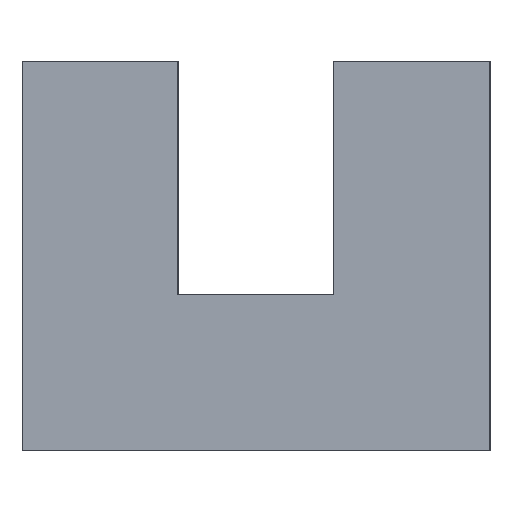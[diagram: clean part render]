
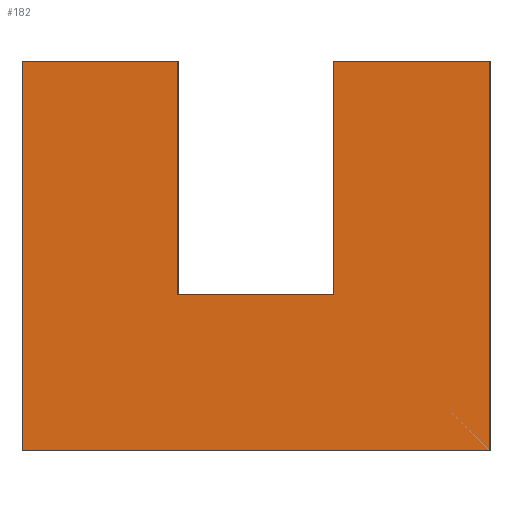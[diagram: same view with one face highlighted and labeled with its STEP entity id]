
A CAD part, left-side view. The second image highlights one B-rep face of the part: STEP entity #182.
In plain terms, the highlighted planar face has unit normal (-1, 0, 0).
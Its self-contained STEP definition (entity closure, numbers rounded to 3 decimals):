
#28 = ORIENTED_EDGE ( 'NONE', *, *, #205, .T. ) ;
#29 = VECTOR ( 'NONE', #273, 1000. ) ;
#35 = DIRECTION ( 'NONE',  ( 0., 0., -1. ) ) ;
#42 = CARTESIAN_POINT ( 'NONE',  ( 0., 0., 5. ) ) ;
#44 = DIRECTION ( 'NONE',  ( 0., -1., 0. ) ) ;
#49 = DIRECTION ( 'NONE',  ( 0., 0., -1. ) ) ;
#58 = CARTESIAN_POINT ( 'NONE',  ( 0., 6., 2. ) ) ;
#63 = CARTESIAN_POINT ( 'NONE',  ( 0., 2., 2. ) ) ;
#65 = VERTEX_POINT ( 'NONE', #560 ) ;
#71 = DIRECTION ( 'NONE',  ( 1., 0., 0. ) ) ;
#74 = ORIENTED_EDGE ( 'NONE', *, *, #455, .F. ) ;
#87 = VERTEX_POINT ( 'NONE', #63 ) ;
#90 = VECTOR ( 'NONE', #49, 1000. ) ;
#91 = LINE ( 'NONE', #458, #447 ) ;
#104 = LINE ( 'NONE', #58, #452 ) ;
#117 = LINE ( 'NONE', #165, #311 ) ;
#129 = AXIS2_PLACEMENT_3D ( 'NONE', #577, #71, #255 ) ;
#139 = EDGE_CURVE ( 'NONE', #65, #87, #117, .T. ) ;
#140 = CARTESIAN_POINT ( 'NONE',  ( 0., 0., 2. ) ) ;
#142 = VERTEX_POINT ( 'NONE', #42 ) ;
#165 = CARTESIAN_POINT ( 'NONE',  ( 0., 2., 5. ) ) ;
#182 = ADVANCED_FACE ( 'NONE', ( #298 ), #482, .F. ) ;
#205 = EDGE_CURVE ( 'NONE', #329, #277, #91, .T. ) ;
#214 = EDGE_LOOP ( 'NONE', ( #28, #344, #348, #289, #573, #465, #74, #326 ) ) ;
#226 = EDGE_CURVE ( 'NONE', #510, #386, #367, .T. ) ;
#235 = LINE ( 'NONE', #499, #29 ) ;
#252 = LINE ( 'NONE', #382, #569 ) ;
#255 = DIRECTION ( 'NONE',  ( 0., 0., -1. ) ) ;
#262 = EDGE_CURVE ( 'NONE', #142, #277, #467, .T. ) ;
#273 = DIRECTION ( 'NONE',  ( 0., -1., 0. ) ) ;
#277 = VERTEX_POINT ( 'NONE', #324 ) ;
#286 = EDGE_CURVE ( 'NONE', #65, #142, #235, .T. ) ;
#289 = ORIENTED_EDGE ( 'NONE', *, *, #139, .T. ) ;
#296 = CARTESIAN_POINT ( 'NONE',  ( 0., 6., 5. ) ) ;
#298 = FACE_OUTER_BOUND ( 'NONE', #214, .T. ) ;
#299 = DIRECTION ( 'NONE',  ( 0., -1., 0. ) ) ;
#309 = EDGE_CURVE ( 'NONE', #396, #329, #104, .T. ) ;
#311 = VECTOR ( 'NONE', #35, 1000. ) ;
#317 = EDGE_CURVE ( 'NONE', #386, #87, #377, .T. ) ;
#318 = CARTESIAN_POINT ( 'NONE',  ( 0., 4., 5. ) ) ;
#324 = CARTESIAN_POINT ( 'NONE',  ( 0., 0., 0. ) ) ;
#326 = ORIENTED_EDGE ( 'NONE', *, *, #309, .T. ) ;
#329 = VERTEX_POINT ( 'NONE', #513 ) ;
#331 = CARTESIAN_POINT ( 'NONE',  ( 0., 0., 2. ) ) ;
#344 = ORIENTED_EDGE ( 'NONE', *, *, #262, .F. ) ;
#348 = ORIENTED_EDGE ( 'NONE', *, *, #286, .F. ) ;
#367 = LINE ( 'NONE', #318, #535 ) ;
#377 = LINE ( 'NONE', #331, #380 ) ;
#380 = VECTOR ( 'NONE', #299, 1000. ) ;
#382 = CARTESIAN_POINT ( 'NONE',  ( 0., 6., 5. ) ) ;
#386 = VERTEX_POINT ( 'NONE', #436 ) ;
#396 = VERTEX_POINT ( 'NONE', #296 ) ;
#436 = CARTESIAN_POINT ( 'NONE',  ( 0., 4., 2. ) ) ;
#440 = DIRECTION ( 'NONE',  ( 0., -1., 0. ) ) ;
#447 = VECTOR ( 'NONE', #44, 1000. ) ;
#452 = VECTOR ( 'NONE', #557, 1000. ) ;
#455 = EDGE_CURVE ( 'NONE', #396, #510, #252, .T. ) ;
#458 = CARTESIAN_POINT ( 'NONE',  ( 0., 0., 0. ) ) ;
#465 = ORIENTED_EDGE ( 'NONE', *, *, #226, .F. ) ;
#467 = LINE ( 'NONE', #140, #90 ) ;
#482 = PLANE ( 'NONE',  #129 ) ;
#499 = CARTESIAN_POINT ( 'NONE',  ( 0., 0., 5. ) ) ;
#510 = VERTEX_POINT ( 'NONE', #532 ) ;
#513 = CARTESIAN_POINT ( 'NONE',  ( 0., 6., 0. ) ) ;
#532 = CARTESIAN_POINT ( 'NONE',  ( 0., 4., 5. ) ) ;
#535 = VECTOR ( 'NONE', #547, 1000. ) ;
#547 = DIRECTION ( 'NONE',  ( 0., 0., -1. ) ) ;
#557 = DIRECTION ( 'NONE',  ( 0., 0., -1. ) ) ;
#560 = CARTESIAN_POINT ( 'NONE',  ( 0., 2., 5. ) ) ;
#569 = VECTOR ( 'NONE', #440, 1000. ) ;
#573 = ORIENTED_EDGE ( 'NONE', *, *, #317, .F. ) ;
#577 = CARTESIAN_POINT ( 'NONE',  ( 0., 0., 2. ) ) ;
